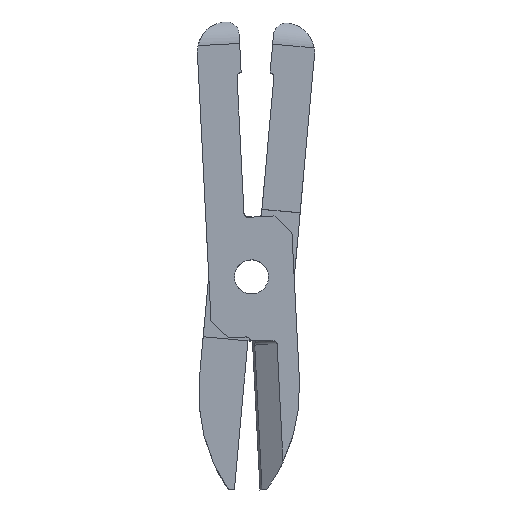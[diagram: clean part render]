
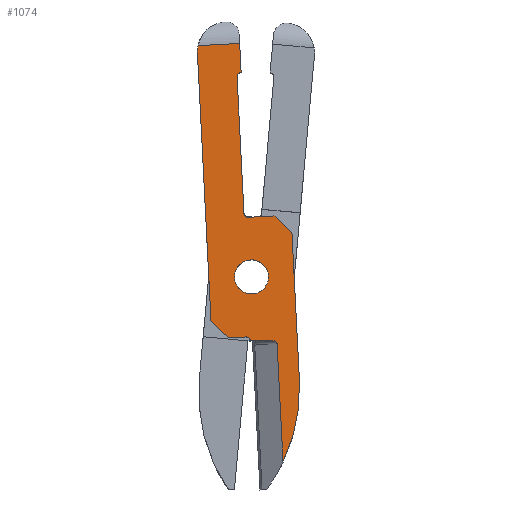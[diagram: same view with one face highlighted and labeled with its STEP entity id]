
A CAD part, top view. The second image highlights one B-rep face of the part: STEP entity #1074.
In plain terms, the highlighted planar face has unit normal (0, 0, 1).
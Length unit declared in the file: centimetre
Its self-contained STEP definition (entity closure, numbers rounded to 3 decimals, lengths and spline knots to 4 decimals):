
#15=FACE_BOUND('',#129,.T.);
#26=ELLIPSE('',#1125,0.1,0.05);
#69=FACE_OUTER_BOUND('',#128,.T.);
#128=EDGE_LOOP('',(#774,#775,#776,#777,#778,#779,#780,#781,#782,#783,#784,
#785,#786,#787,#788,#789,#790));
#129=EDGE_LOOP('',(#791));
#189=LINE('',#1567,#305);
#196=LINE('',#1584,#312);
#202=LINE('',#1596,#318);
#205=LINE('',#1610,#321);
#208=LINE('',#1616,#324);
#214=LINE('',#1626,#330);
#215=LINE('',#1656,#331);
#216=LINE('',#1662,#332);
#217=LINE('',#1663,#333);
#218=LINE('',#1667,#334);
#219=LINE('',#1670,#335);
#305=VECTOR('',#1251,1.3864);
#312=VECTOR('',#1268,0.2098);
#318=VECTOR('',#1276,1.7361);
#321=VECTOR('',#1293,0.2);
#324=VECTOR('',#1298,0.2828);
#330=VECTOR('',#1306,0.3);
#331=VECTOR('',#1309,0.4882);
#332=VECTOR('',#1316,3.15);
#333=VECTOR('',#1317,0.2828);
#334=VECTOR('',#1320,1.6);
#335=VECTOR('',#1323,0.3402);
#408=CIRCLE('',#1136,2.);
#409=CIRCLE('',#1138,0.05);
#413=CIRCLE('',#1147,0.35);
#414=CIRCLE('',#1148,0.05);
#415=CIRCLE('',#1149,0.05);
#416=CIRCLE('',#1150,0.2);
#449=VERTEX_POINT('',#1556);
#450=VERTEX_POINT('',#1558);
#452=VERTEX_POINT('',#1565);
#457=VERTEX_POINT('',#1583);
#461=VERTEX_POINT('',#1593);
#462=VERTEX_POINT('',#1595);
#463=VERTEX_POINT('',#1601);
#466=VERTEX_POINT('',#1609);
#468=VERTEX_POINT('',#1615);
#471=VERTEX_POINT('',#1624);
#474=VERTEX_POINT('',#1642);
#475=VERTEX_POINT('',#1655);
#476=VERTEX_POINT('',#1659);
#477=VERTEX_POINT('',#1661);
#478=VERTEX_POINT('',#1664);
#479=VERTEX_POINT('',#1666);
#480=VERTEX_POINT('',#1668);
#481=VERTEX_POINT('',#1671);
#553=EDGE_CURVE('',#449,#450,#26,.T.);
#558=EDGE_CURVE('',#452,#449,#189,.T.);
#566=EDGE_CURVE('',#450,#457,#196,.T.);
#572=EDGE_CURVE('',#461,#462,#202,.T.);
#574=EDGE_CURVE('',#462,#452,#408,.T.);
#575=EDGE_CURVE('',#457,#463,#409,.T.);
#579=EDGE_CURVE('',#463,#466,#205,.T.);
#582=EDGE_CURVE('',#468,#461,#208,.T.);
#588=EDGE_CURVE('',#471,#468,#214,.T.);
#591=EDGE_CURVE('',#474,#475,#215,.T.);
#593=EDGE_CURVE('',#474,#476,#413,.T.);
#594=EDGE_CURVE('',#476,#477,#216,.T.);
#595=EDGE_CURVE('',#477,#466,#217,.T.);
#596=EDGE_CURVE('',#478,#471,#414,.T.);
#597=EDGE_CURVE('',#478,#479,#218,.T.);
#598=EDGE_CURVE('',#480,#479,#415,.T.);
#599=EDGE_CURVE('',#480,#475,#219,.T.);
#600=EDGE_CURVE('',#481,#481,#416,.T.);
#774=ORIENTED_EDGE('',*,*,#591,.F.);
#775=ORIENTED_EDGE('',*,*,#593,.T.);
#776=ORIENTED_EDGE('',*,*,#594,.T.);
#777=ORIENTED_EDGE('',*,*,#595,.T.);
#778=ORIENTED_EDGE('',*,*,#579,.F.);
#779=ORIENTED_EDGE('',*,*,#575,.F.);
#780=ORIENTED_EDGE('',*,*,#566,.F.);
#781=ORIENTED_EDGE('',*,*,#553,.F.);
#782=ORIENTED_EDGE('',*,*,#558,.F.);
#783=ORIENTED_EDGE('',*,*,#574,.F.);
#784=ORIENTED_EDGE('',*,*,#572,.F.);
#785=ORIENTED_EDGE('',*,*,#582,.F.);
#786=ORIENTED_EDGE('',*,*,#588,.F.);
#787=ORIENTED_EDGE('',*,*,#596,.F.);
#788=ORIENTED_EDGE('',*,*,#597,.T.);
#789=ORIENTED_EDGE('',*,*,#598,.F.);
#790=ORIENTED_EDGE('',*,*,#599,.T.);
#791=ORIENTED_EDGE('',*,*,#600,.F.);
#1030=PLANE('',#1146);
#1074=ADVANCED_FACE('',(#69,#15),#1030,.T.);
#1125=AXIS2_PLACEMENT_3D('',#1559,#1241,#1242);
#1136=AXIS2_PLACEMENT_3D('',#1599,#1280,#1281);
#1138=AXIS2_PLACEMENT_3D('',#1602,#1284,#1285);
#1146=AXIS2_PLACEMENT_3D('',#1658,#1312,#1313);
#1147=AXIS2_PLACEMENT_3D('',#1660,#1314,#1315);
#1148=AXIS2_PLACEMENT_3D('',#1665,#1318,#1319);
#1149=AXIS2_PLACEMENT_3D('',#1669,#1321,#1322);
#1150=AXIS2_PLACEMENT_3D('',#1672,#1324,#1325);
#1241=DIRECTION('center_axis',(0.,0.,
1.));
#1242=DIRECTION('ref_axis',(-0.999,-0.051,0.));
#1251=DIRECTION('',(-0.051,0.999,0.));
#1268=DIRECTION('',(-0.999,-0.051,0.));
#1276=DIRECTION('',(0.051,-0.999,0.));
#1280=DIRECTION('center_axis',(0.,0.,
-1.));
#1281=DIRECTION('ref_axis',(0.903,-0.43,0.));
#1284=DIRECTION('center_axis',(0.,0.,
1.));
#1285=DIRECTION('ref_axis',(-0.051,0.999,0.));
#1293=DIRECTION('',(-0.999,-0.051,0.));
#1298=DIRECTION('',(0.742,-0.67,0.));
#1306=DIRECTION('',(0.999,0.051,0.));
#1309=DIRECTION('',(0.999,0.051,0.));
#1312=DIRECTION('center_axis',(0.,0.,
1.));
#1313=DIRECTION('ref_axis',(0.999,-0.04,0.));
#1314=DIRECTION('center_axis',(0.,0.,
1.));
#1315=DIRECTION('ref_axis',(-0.999,-0.051,0.));
#1316=DIRECTION('',(0.051,-0.999,0.));
#1317=DIRECTION('',(0.742,-0.67,0.));
#1318=DIRECTION('center_axis',(0.,0.,
1.));
#1319=DIRECTION('ref_axis',(0.051,-0.999,0.));
#1320=DIRECTION('',(-0.051,0.999,0.));
#1321=DIRECTION('center_axis',(0.,0.,
1.));
#1322=DIRECTION('ref_axis',(-0.999,-0.051,0.));
#1323=DIRECTION('',(-0.051,0.999,0.));
#1324=DIRECTION('center_axis',(0.,0.,
1.));
#1325=DIRECTION('ref_axis',(-0.842,0.539,0.));
#1556=CARTESIAN_POINT('',(0.3,-0.1858,0.25));
#1558=CARTESIAN_POINT('',(0.1976,-0.141,0.25));
#1559=CARTESIAN_POINT('Origin',(0.2001,-0.1909,0.25));
#1565=CARTESIAN_POINT('',(0.3701,-1.5704,0.25));
#1567=CARTESIAN_POINT('',(0.3701,-1.5704,0.25));
#1583=CARTESIAN_POINT('',(-0.012,-0.1516,0.25));
#1584=CARTESIAN_POINT('',(0.1976,-0.141,0.25));
#1593=CARTESIAN_POINT('',(0.4741,1.1247,0.25));
#1595=CARTESIAN_POINT('',(0.5619,-0.6092,0.25));
#1596=CARTESIAN_POINT('',(0.4741,1.1247,0.25));
#1599=CARTESIAN_POINT('Origin',(-1.4355,-0.7104,0.25));
#1601=CARTESIAN_POINT('',(-0.0645,-0.1042,0.25));
#1602=CARTESIAN_POINT('Origin',(-0.0619,-0.1541,
0.25));
#1609=CARTESIAN_POINT('',(-0.2642,-0.1143,0.25));
#1610=CARTESIAN_POINT('',(-0.0645,-0.1042,0.25));
#1615=CARTESIAN_POINT('',(0.2642,1.3143,0.25));
#1616=CARTESIAN_POINT('',(0.2642,1.3143,0.25));
#1624=CARTESIAN_POINT('',(-0.0354,1.2991,0.25));
#1626=CARTESIAN_POINT('',(-0.0354,1.2991,0.25));
#1642=CARTESIAN_POINT('',(-0.6262,3.312,0.25));
#1655=CARTESIAN_POINT('',(-0.1387,3.3367,0.25));
#1656=CARTESIAN_POINT('',(-0.6262,3.312,0.25));
#1658=CARTESIAN_POINT('Origin',(0.1356,-2.0756,0.25));
#1659=CARTESIAN_POINT('',(-0.6334,3.2213,0.25));
#1660=CARTESIAN_POINT('Origin',(-0.2839,3.239,0.25));
#1661=CARTESIAN_POINT('',(-0.4741,0.0753,0.25));
#1662=CARTESIAN_POINT('',(-0.6334,3.2213,0.25));
#1663=CARTESIAN_POINT('',(-0.4741,0.0753,0.25));
#1664=CARTESIAN_POINT('',(-0.0879,1.3465,0.25));
#1665=CARTESIAN_POINT('Origin',(-0.0379,1.349,0.25));
#1666=CARTESIAN_POINT('',(-0.1688,2.9445,0.25));
#1667=CARTESIAN_POINT('',(-0.0879,1.3465,0.25));
#1668=CARTESIAN_POINT('',(-0.1214,2.9969,0.25));
#1669=CARTESIAN_POINT('Origin',(-0.1189,2.947,0.25));
#1670=CARTESIAN_POINT('',(-0.1214,2.9969,0.25));
#1671=CARTESIAN_POINT('',(0.1997,0.6101,0.25));
#1672=CARTESIAN_POINT('Origin',(0.,0.6,0.25));
